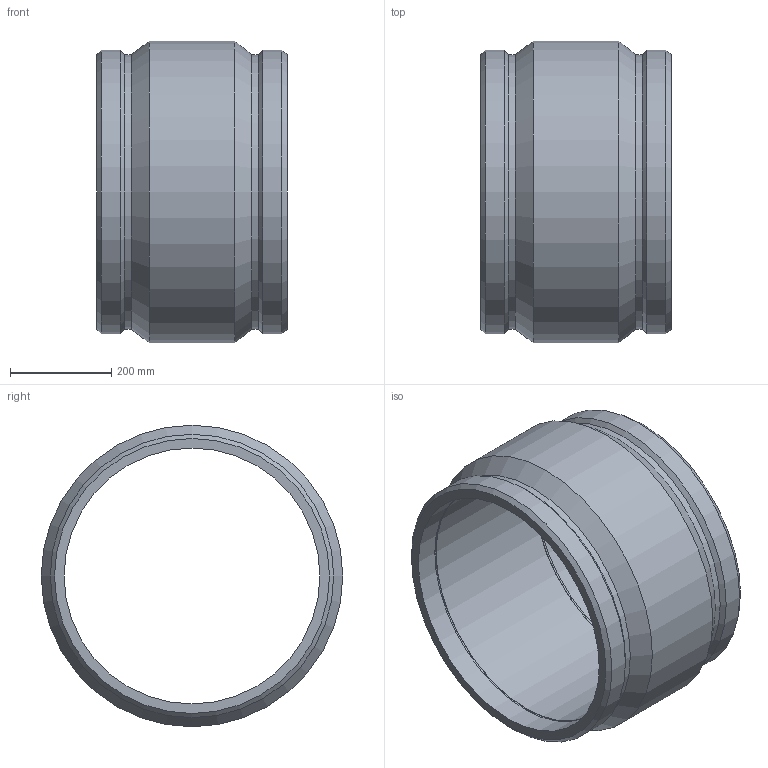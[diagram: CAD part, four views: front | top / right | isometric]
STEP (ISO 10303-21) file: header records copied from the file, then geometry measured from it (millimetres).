
FILE_DESCRIPTION(/* description */ ('PLASSON IPS COUPLER 20'''''),/* implementation_level */ '2;1');
FILE_NAME(/* name */ 'C:\Dropbox\KIMPROJECTS-Inventor 2019\99-16-3568-Processing Inch\ASTM ElectroFusion 2021\5901B\5901B003200.ipt.stp',/* time_stamp */ '2021-08-30T09:48:44+03:00',/* author */ ('KIM'),/* organization */ (''),/* preprocessor_version */ 'ST-DEVELOPER v17.2',/* originating_system */ 'Autodesk Inventor 2019',/* authorisation */ '');
FILE_SCHEMA (('AUTOMOTIVE_DESIGN { 1 0 10303 214 3 1 1 }'));
Length unit declared in the file: inch
Products named in the file (1): 5901B003200
Bounding box: 375.92 x 595.88 x 595.88 mm (x, y, z)
Volume: 22543475.5 mm3; surface area: 1397226.9 mm2
Topology: 1 solids, 1 shells, 20 faces, 56 edges, 40 vertices
Faces by surface type: cone 8, cylinder 8, plane 4
Full cylindrical faces by diameter (mm): 505.7 x3, 543.327 x2, 560.131 x2, 595.884 x1
Entity records: 731 total; most frequent: DIRECTION 138, CARTESIAN_POINT 117, ORIENTED_EDGE 112, AXIS2_PLACEMENT_3D 61, EDGE_CURVE 56, CIRCLE 40, VERTEX_POINT 40, EDGE_LOOP 24
